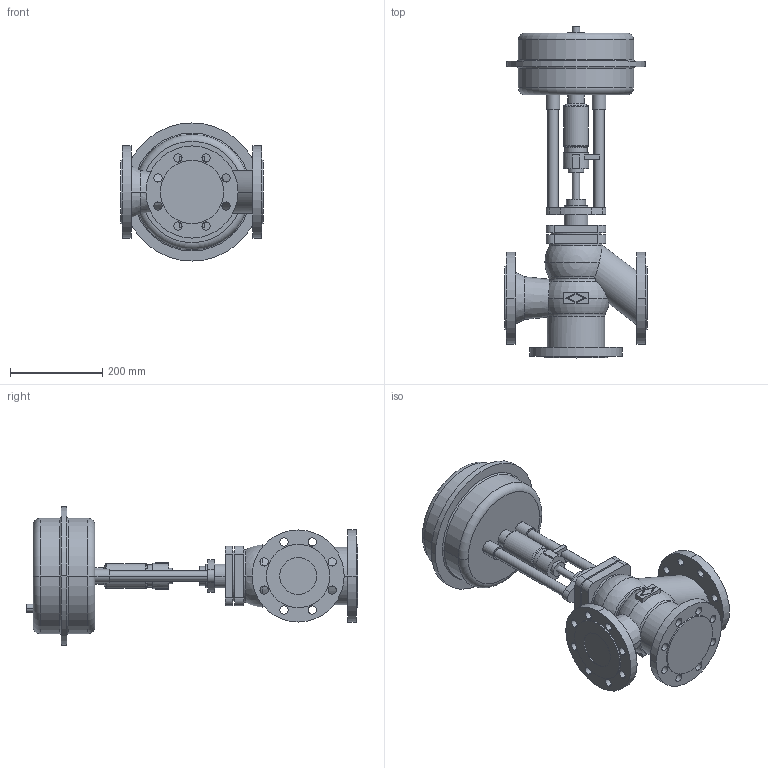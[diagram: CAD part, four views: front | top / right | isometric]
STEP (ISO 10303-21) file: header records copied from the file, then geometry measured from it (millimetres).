
FILE_DESCRIPTION(('OneSpaceDesigner STEP Export'),'2;1');
FILE_NAME('c000000667.stp','2006-09-19T10:03:57',(''),(''),'OneSpace Designer STEP processor for AP214 (Solid Model)','OneSpace Designer 13.20A 18-Aug-2005 (C) CoCreate Software GmbH','');
FILE_SCHEMA(('AUTOMOTIVE_DESIGN { 1 0 10303 214 1 1 1 1 }'));
Length unit declared in the file: millimetre
Products named in the file (2): 1; 2
Bounding box: 310 x 721.1 x 300 mm (x, y, z)
Volume: 14084736.9 mm3; surface area: 728402.3 mm2
Topology: 2 solids, 2 shells, 237 faces, 593 edges, 384 vertices
Faces by surface type: cylinder 118, plane 81, torus 26, cone 8, sphere 4
Entity records: 6440 total; most frequent: CARTESIAN_POINT 1262, ORIENTED_EDGE 1178, DIRECTION 926, EDGE_CURVE 589, VERTEX_POINT 384, AXIS2_PLACEMENT_3D 341, EDGE_LOOP 313, VECTOR 244
